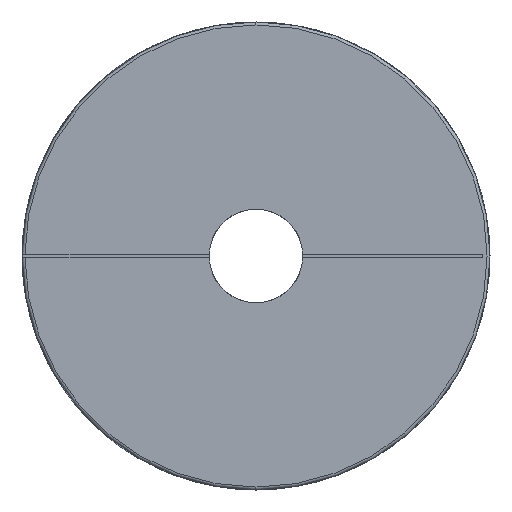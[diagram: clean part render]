
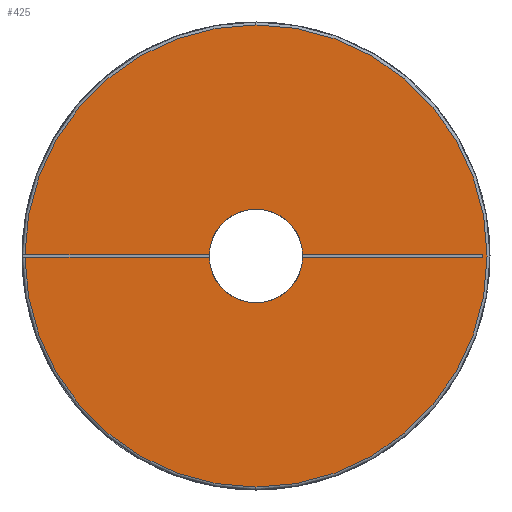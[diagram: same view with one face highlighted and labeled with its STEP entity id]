
A CAD part, left-side view. The second image highlights one B-rep face of the part: STEP entity #425.
In plain terms, the highlighted planar face has unit normal (-1, 0, 0).
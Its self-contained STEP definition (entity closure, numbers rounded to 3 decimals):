
#184 = EDGE_CURVE ( 'NONE', #288, #306, #804, .T. ) ;
#285 = ORIENTED_EDGE ( 'NONE', *, *, #461, .F. ) ;
#286 = ORIENTED_EDGE ( 'NONE', *, *, #367, .F. ) ;
#287 = ORIENTED_EDGE ( 'NONE', *, *, #3048, .T. ) ;
#288 = VERTEX_POINT ( 'NONE', #1035 ) ;
#289 = ORIENTED_EDGE ( 'NONE', *, *, #405, .T. ) ;
#290 = ORIENTED_EDGE ( 'NONE', *, *, #308, .F. ) ;
#291 = EDGE_CURVE ( 'NONE', #288, #3049, #1034, .T. ) ;
#292 = ORIENTED_EDGE ( 'NONE', *, *, #291, .T. ) ;
#293 = ORIENTED_EDGE ( 'NONE', *, *, #184, .F. ) ;
#299 = EDGE_CURVE ( 'NONE', #306, #3421, #1017, .T. ) ;
#306 = VERTEX_POINT ( 'NONE', #1067 ) ;
#308 = EDGE_CURVE ( 'NONE', #458, #407, #1066, .T. ) ;
#363 = ORIENTED_EDGE ( 'NONE', *, *, #364, .F. ) ;
#364 = EDGE_CURVE ( 'NONE', #366, #365, #1164, .T. ) ;
#365 = VERTEX_POINT ( 'NONE', #1160 ) ;
#366 = VERTEX_POINT ( 'NONE', #1159 ) ;
#367 = EDGE_CURVE ( 'NONE', #365, #459, #1158, .T. ) ;
#368 = ORIENTED_EDGE ( 'NONE', *, *, #369, .F. ) ;
#369 = EDGE_CURVE ( 'NONE', #370, #366, #1153, .T. ) ;
#370 = VERTEX_POINT ( 'NONE', #1149 ) ;
#405 = EDGE_CURVE ( 'NONE', #406, #407, #1256, .T. ) ;
#406 = VERTEX_POINT ( 'NONE', #1251 ) ;
#407 = VERTEX_POINT ( 'NONE', #1250 ) ;
#425 = ADVANCED_FACE ( 'NONE', ( #1343 ), #1342, .F. ) ;
#426 = EDGE_LOOP ( 'NONE', ( #292, #287, #289, #290, #285, #286, #363, #368, #428, #430, #431, #293 ) ) ;
#428 = ORIENTED_EDGE ( 'NONE', *, *, #429, .F. ) ;
#429 = EDGE_CURVE ( 'NONE', #3420, #370, #1336, .T. ) ;
#430 = ORIENTED_EDGE ( 'NONE', *, *, #3422, .F. ) ;
#431 = ORIENTED_EDGE ( 'NONE', *, *, #299, .F. ) ;
#458 = VERTEX_POINT ( 'NONE', #1344 ) ;
#459 = VERTEX_POINT ( 'NONE', #1420 ) ;
#461 = EDGE_CURVE ( 'NONE', #459, #458, #1414, .T. ) ;
#801 = DIRECTION ( 'NONE',  ( 0., -1., 0. ) ) ;
#802 = VECTOR ( 'NONE', #801, 1000. ) ;
#803 = CARTESIAN_POINT ( 'NONE',  ( 0., 39.999, -0.25 ) ) ;
#804 = LINE ( 'NONE', #803, #802 ) ;
#1014 = DIRECTION ( 'NONE',  ( 0., 0., 1. ) ) ;
#1015 = DIRECTION ( 'NONE',  ( -1., 0., 0. ) ) ;
#1016 = AXIS2_PLACEMENT_3D ( 'NONE', #1022, #1015, #1014 ) ;
#1017 = CIRCLE ( 'NONE', #1016, 8. ) ;
#1022 = CARTESIAN_POINT ( 'NONE',  ( 0., 0., 0. ) ) ;
#1030 = DIRECTION ( 'NONE',  ( 0., 0., -1. ) ) ;
#1031 = DIRECTION ( 'NONE',  ( -1., 0., 0. ) ) ;
#1032 = CARTESIAN_POINT ( 'NONE',  ( 0., 0., 0. ) ) ;
#1033 = AXIS2_PLACEMENT_3D ( 'NONE', #1032, #1031, #1030 ) ;
#1034 = CIRCLE ( 'NONE', #1033, 39.5 ) ;
#1035 = CARTESIAN_POINT ( 'NONE',  ( 0., 39.499, -0.25 ) ) ;
#1063 = DIRECTION ( 'NONE',  ( 0., 1., 0. ) ) ;
#1064 = VECTOR ( 'NONE', #1063, 1000. ) ;
#1065 = CARTESIAN_POINT ( 'NONE',  ( 0., 39.999, 0.25 ) ) ;
#1066 = LINE ( 'NONE', #1065, #1064 ) ;
#1067 = CARTESIAN_POINT ( 'NONE',  ( 0., 7.996, -0.25 ) ) ;
#1149 = CARTESIAN_POINT ( 'NONE',  ( 0., -38.8, -0.25 ) ) ;
#1150 = DIRECTION ( 'NONE',  ( 0., 0., 1. ) ) ;
#1151 = VECTOR ( 'NONE', #1150, 1000. ) ;
#1152 = CARTESIAN_POINT ( 'NONE',  ( 0., -38.8, -0.25 ) ) ;
#1153 = LINE ( 'NONE', #1152, #1151 ) ;
#1154 = DIRECTION ( 'NONE',  ( 0., 0., 1. ) ) ;
#1155 = DIRECTION ( 'NONE',  ( -1., 0., 0. ) ) ;
#1156 = CARTESIAN_POINT ( 'NONE',  ( 0., 0., 0. ) ) ;
#1157 = AXIS2_PLACEMENT_3D ( 'NONE', #1156, #1155, #1154 ) ;
#1158 = CIRCLE ( 'NONE', #1157, 8. ) ;
#1159 = CARTESIAN_POINT ( 'NONE',  ( 0., -38.8, 0.25 ) ) ;
#1160 = CARTESIAN_POINT ( 'NONE',  ( 0., -7.996, 0.25 ) ) ;
#1161 = DIRECTION ( 'NONE',  ( 0., 1., 0. ) ) ;
#1162 = VECTOR ( 'NONE', #1161, 1000. ) ;
#1163 = CARTESIAN_POINT ( 'NONE',  ( 0., 39.999, 0.25 ) ) ;
#1164 = LINE ( 'NONE', #1163, #1162 ) ;
#1250 = CARTESIAN_POINT ( 'NONE',  ( 0., 39.499, 0.25 ) ) ;
#1251 = CARTESIAN_POINT ( 'NONE',  ( 0., 0., 39.5 ) ) ;
#1252 = DIRECTION ( 'NONE',  ( 0., 0., -1. ) ) ;
#1253 = DIRECTION ( 'NONE',  ( -1., 0., 0. ) ) ;
#1254 = CARTESIAN_POINT ( 'NONE',  ( 0., 0., 0. ) ) ;
#1255 = AXIS2_PLACEMENT_3D ( 'NONE', #1254, #1253, #1252 ) ;
#1256 = CIRCLE ( 'NONE', #1255, 39.5 ) ;
#1333 = DIRECTION ( 'NONE',  ( 0., -1., 0. ) ) ;
#1334 = VECTOR ( 'NONE', #1333, 1000. ) ;
#1335 = CARTESIAN_POINT ( 'NONE',  ( 0., 39.999, -0.25 ) ) ;
#1336 = LINE ( 'NONE', #1335, #1334 ) ;
#1338 = DIRECTION ( 'NONE',  ( 0., 0., -1. ) ) ;
#1339 = DIRECTION ( 'NONE',  ( 1., 0., 0. ) ) ;
#1340 = CARTESIAN_POINT ( 'NONE',  ( 0., 0., 0. ) ) ;
#1341 = AXIS2_PLACEMENT_3D ( 'NONE', #1340, #1339, #1338 ) ;
#1342 = PLANE ( 'NONE',  #1341 ) ;
#1343 = FACE_OUTER_BOUND ( 'NONE', #426, .T. ) ;
#1344 = CARTESIAN_POINT ( 'NONE',  ( 0., 7.996, 0.25 ) ) ;
#1410 = DIRECTION ( 'NONE',  ( 0., 0., 1. ) ) ;
#1411 = DIRECTION ( 'NONE',  ( -1., 0., 0. ) ) ;
#1412 = CARTESIAN_POINT ( 'NONE',  ( 0., 0., 0. ) ) ;
#1413 = AXIS2_PLACEMENT_3D ( 'NONE', #1412, #1411, #1410 ) ;
#1414 = CIRCLE ( 'NONE', #1413, 8. ) ;
#1420 = CARTESIAN_POINT ( 'NONE',  ( 0., 0., 8. ) ) ;
#1693 = CARTESIAN_POINT ( 'NONE',  ( 0., 0., -39.5 ) ) ;
#1694 = DIRECTION ( 'NONE',  ( 0., 0., -1. ) ) ;
#1695 = DIRECTION ( 'NONE',  ( -1., 0., 0. ) ) ;
#1696 = CARTESIAN_POINT ( 'NONE',  ( 0., 0., 0. ) ) ;
#1697 = AXIS2_PLACEMENT_3D ( 'NONE', #1696, #1695, #1694 ) ;
#1698 = CIRCLE ( 'NONE', #1697, 39.5 ) ;
#2317 = DIRECTION ( 'NONE',  ( 0., 0., 1. ) ) ;
#2318 = DIRECTION ( 'NONE',  ( -1., 0., 0. ) ) ;
#2319 = CARTESIAN_POINT ( 'NONE',  ( 0., 0., 0. ) ) ;
#2320 = AXIS2_PLACEMENT_3D ( 'NONE', #2319, #2318, #2317 ) ;
#2321 = CIRCLE ( 'NONE', #2320, 8. ) ;
#2322 = CARTESIAN_POINT ( 'NONE',  ( 0., 0., -8. ) ) ;
#2323 = CARTESIAN_POINT ( 'NONE',  ( 0., -7.996, -0.25 ) ) ;
#3048 = EDGE_CURVE ( 'NONE', #3049, #406, #1698, .T. ) ;
#3049 = VERTEX_POINT ( 'NONE', #1693 ) ;
#3420 = VERTEX_POINT ( 'NONE', #2323 ) ;
#3421 = VERTEX_POINT ( 'NONE', #2322 ) ;
#3422 = EDGE_CURVE ( 'NONE', #3421, #3420, #2321, .T. ) ;
